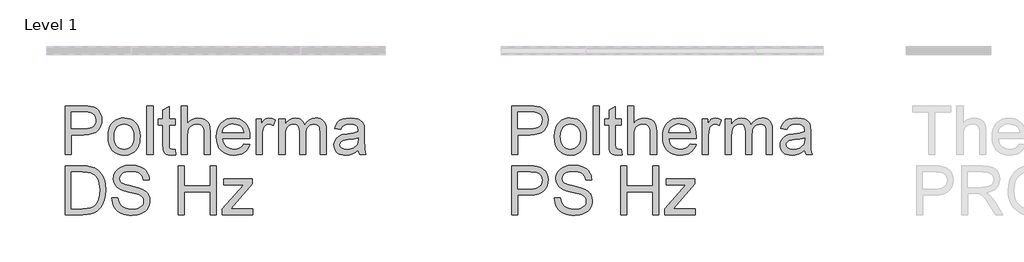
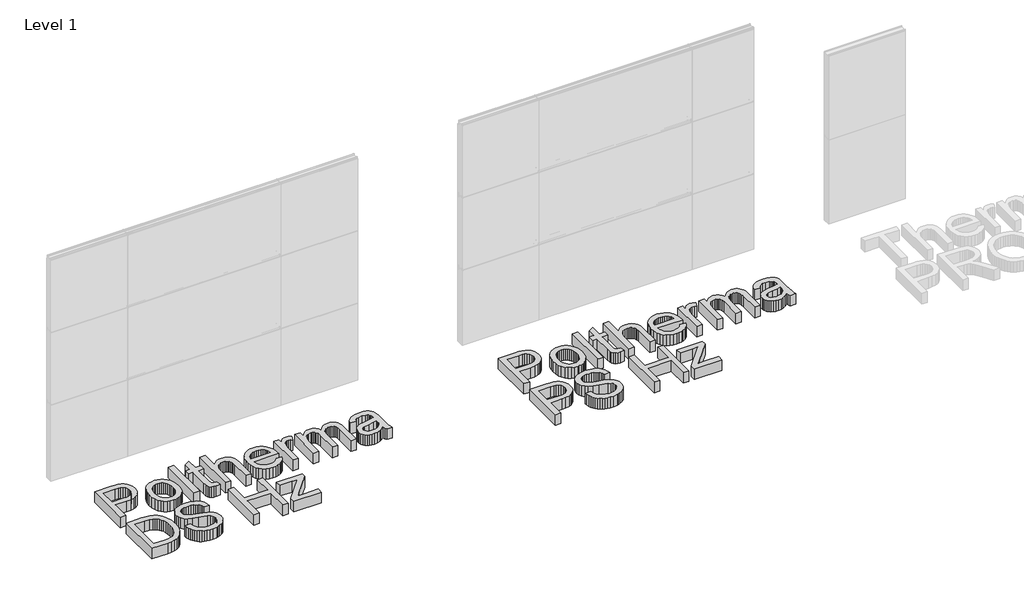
# One storey, part 18 of 27: 2 proxies.
"""IFC4 building model written with IfcOpenShell, lengths in millimetres."""

from ifc_helpers import new_model, si_unit, origin, origin_with_axes, place, context, project, spatial, polyline, outline, extrude, element, save

model = new_model("IFC4")

# Units and contexts
model_context = context("Model", 3, world=origin())
ifc_project = project(units=[si_unit("LENGTHUNIT", "METRE", prefix="MILLI")], contexts=[model_context])

# Site, building, storey
site = spatial("IfcSite", under=ifc_project)
building = spatial("IfcBuilding", under=site)
storey = spatial("IfcBuildingStorey", under=building, Name="Level 1", Elevation=0.0)

# Proxies
placement = place(None, origin())
element("IfcBuildingElementProxy", 1, Name="600mm Arial", ObjectType="600mm Arial", at=placement, inside=storey, context=model_context, shape_type="SweptSolid", body=[
    extrude(outline(polyline([(251.3160797, -19557.7938606), (251.3160797, -18967.0246299), (470.2583874, -18967.0246299), (521.2439643, -18968.4308799), (558.5276182, -18972.6496299), (597.8845893, -18983.1604472), (630.2824259, -19000.2698222), (656.3701663, -19024.7529953), (676.7968489, -19057.3852068), (689.9939643, -19095.8767933), (694.3930028, -19137.9380914), (691.4227504, -19174.2031154), (682.5119932, -19207.5654953), (667.6607312, -19238.0252308), (646.8689643, -19265.5823222), (618.3247937, -19288.4248703), (580.2163201, -19304.740976), (532.5435437, -19314.5306395), (475.3064643, -19317.7938606), (325.1622336, -19317.7938606), (325.1622336, -19557.7938606), (251.3160797, -19557.7938606)]), holes=[polyline([(325.1622336, -19243.9477068), (479.6333874, -19243.9477068), (515.1502143, -19242.2529953), (545.1141566, -19237.1688606), (569.5252143, -19228.6953029), (588.3833874, -19216.8323222), (602.4549018, -19201.8954231), (612.5059836, -19184.2001106), (618.5366326, -19163.7463847), (620.5468489, -19140.5342453), (615.8052624, -19107.3611683), (601.5805028, -19079.3803991), (579.639397, -19058.3227068), (551.748772, -19045.9188606), (523.2631951, -19042.1328029), (477.9026182, -19040.8707837), (325.1622336, -19040.8707837), (325.1622336, -19243.9477068)])]), origin_with_axes(), (0.0, 0.0, 1.0), 150.0),
    extrude(outline(polyline([(768.2391566, -19340.8707837), (772.2325461, -19284.6838847), (784.2127143, -19236.2674183), (804.1796614, -19195.6213847), (832.1333874, -19162.7457837), (860.2764163, -19141.7331635), (891.3401182, -19126.7241491), (925.3244932, -19117.7187404), (962.2295413, -19114.7169376), (1002.9702263, -19118.3722861), (1039.8076663, -19129.3383318), (1072.741861, -19147.6150746), (1101.7728105, -19173.2025145), (1125.4672215, -19205.2352669), (1142.3918009, -19242.8479472), (1152.5465485, -19286.0405553), (1155.9314643, -19334.8130914), (1154.4350701, -19374.3413366), (1149.9458874, -19409.4164568), (1142.4639163, -19440.038452), (1131.9891566, -19466.2073222), (1118.6523177, -19488.810988), (1102.5841086, -19508.7373703), (1083.7845292, -19525.9864688), (1062.2535797, -19540.5582837), (1038.8296013, -19552.1373102), (1014.3509355, -19560.4080433), (988.8175821, -19565.3704832), (962.2295413, -19567.0246299), (920.8939042, -19563.3828029), (883.7139163, -19552.4573222), (850.6895773, -19534.2481876), (821.8208874, -19508.7553991), (798.3788802, -19476.4116491), (781.6345893, -19437.6496299), (771.5880148, -19392.4693414), (768.2391566, -19340.8707837)]), holes=[polyline([(842.0853105, -19340.7265529), (844.2217288, -19376.545363), (850.6309836, -19407.5594856), (861.3130749, -19433.7689207), (876.2680028, -19455.1736683), (894.4591086, -19471.8007717), (914.8497336, -19483.6772741), (937.4398778, -19490.8031755), (962.2295413, -19493.178476), (986.8930028, -19490.7896539), (1009.3930028, -19483.6231876), (1029.7295413, -19471.679077), (1047.9026182, -19454.9573222), (1062.8575461, -19433.3407356), (1073.5396374, -19406.7121299), (1079.9488922, -19375.0715049), (1082.0853105, -19338.4188606), (1079.9353706, -19303.7358678), (1073.4855509, -19273.5330433), (1062.7358513, -19247.8103871), (1047.686272, -19226.5678991), (1029.4455869, -19209.9407957), (1009.1225701, -19198.0642933), (986.7172215, -19190.9383919), (962.2295413, -19188.5630914), (937.4398778, -19190.9293775), (914.8497336, -19198.0282356), (894.4591086, -19209.8596659), (876.2680028, -19226.4236683), (861.3130749, -19247.765315), (850.6309836, -19273.9296779), (844.2217288, -19304.9167573), (842.0853105, -19340.7265529)])]), origin_with_axes(), (0.0, 0.0, 1.0), 150.0),
    extrude(outline(polyline([(1239.0083874, -19557.7938606), (1239.0083874, -18967.0246299), (1312.8545413, -18967.0246299), (1312.8545413, -19557.7938606), (1239.0083874, -19557.7938606)])), origin_with_axes(), (0.0, 0.0, 1.0), 150.0),
    extrude(outline(polyline([(1580.5468489, -19496.2073222), (1589.7776182, -19559.9573222), (1534.5372336, -19567.0246299), (1499.092522, -19563.959726), (1472.6622336, -19554.7650145), (1453.9843489, -19540.5943414), (1441.7968489, -19522.6015529), (1435.0901182, -19491.7001106), (1432.8545413, -19438.803476), (1432.8545413, -19197.7938606), (1377.4699259, -19197.7938606), (1377.4699259, -19123.9477068), (1432.8545413, -19123.9477068), (1432.8545413, -19018.5150145), (1506.7006951, -18975.1015529), (1506.7006951, -19123.9477068), (1580.5468489, -19123.9477068), (1580.5468489, -19197.7938606), (1506.7006951, -19197.7938606), (1506.7006951, -19436.6400145), (1510.5949259, -19474.7169376), (1523.2151182, -19488.2025145), (1533.8701663, -19491.9344856), (1548.3833874, -19493.178476), (1580.5468489, -19496.2073222)])), origin_with_axes(), (0.0, 0.0, 1.0), 150.0),
    extrude(outline(polyline([(1654.3930028, -19557.7938606), (1654.3930028, -18967.0246299), (1728.2391566, -18967.0246299), (1728.2391566, -19184.2361683), (1755.3635557, -19153.8215049), (1785.8232913, -19132.0967453), (1819.6183634, -19119.0618895), (1856.748772, -19114.7169376), (1901.3521374, -19119.4585241), (1939.6814643, -19133.6832837), (1969.8617528, -19156.2734279), (1990.0180028, -19186.1111683), (2001.3761759, -19227.1087645), (2005.1622336, -19283.178476), (2005.1622336, -19557.7938606), (1931.3160797, -19557.7938606), (1931.3160797, -19290.8227068), (1929.8467288, -19265.8888126), (1925.4386759, -19244.5967453), (1918.0919211, -19226.9465049), (1907.8064643, -19212.9380914), (1894.8256951, -19202.2740289), (1879.3930028, -19194.6568414), (1861.5083874, -19190.0865289), (1841.1718489, -19188.5630914), (1809.9639163, -19192.6736683), (1780.6670413, -19205.0053991), (1756.4002143, -19224.3683799), (1740.2824259, -19249.5727068), (1731.2499739, -19283.0703029), (1728.2391566, -19327.3130914), (1728.2391566, -19557.7938606), (1654.3930028, -19557.7938606)])), origin_with_axes(), (0.0, 0.0, 1.0), 150.0),
    extrude(outline(polyline([(2410.4506951, -19428.5630914), (2482.8545413, -19437.7938606), (2471.7532792, -19466.7932597), (2456.7668009, -19492.3491491), (2437.8951062, -19514.4615289), (2415.1381951, -19533.1303991), (2388.7304427, -19547.9591251), (2358.9062239, -19558.5510722), (2325.6655388, -19564.9062404), (2289.0083874, -19567.0246299), (2243.1880749, -19563.3692813), (2202.3617528, -19552.4032356), (2166.5294211, -19534.1264928), (2135.6910797, -19508.5390529), (2110.8924018, -19476.3530553), (2093.1790605, -19438.2806395), (2082.5510557, -19394.3218053), (2079.0083874, -19344.4765529), (2082.5871134, -19292.9410962), (2093.3232913, -19247.5174183), (2111.2169211, -19208.2055193), (2136.2680028, -19175.0053991), (2167.0252143, -19148.6291972), (2202.0372336, -19129.7890529), (2241.3040605, -19118.4849664), (2284.8256951, -19114.7169376), (2326.9455869, -19118.475952), (2365.0360316, -19129.7529953), (2399.0970292, -19148.5480674), (2429.1285797, -19174.8611683), (2453.6433033, -19207.9891731), (2471.1538201, -19247.2289568), (2481.6601302, -19292.5805193), (2485.1622336, -19344.0438606), (2484.7295413, -19363.9477068), (2152.8545413, -19363.9477068), (2157.131885, -19393.4158558), (2165.6369932, -19419.2241491), (2178.3698658, -19441.3725866), (2195.3305028, -19459.8611683), (2215.5814042, -19474.4374904), (2238.1850701, -19484.8491491), (2263.1415004, -19491.0961443), (2290.4506951, -19493.178476), (2329.7535797, -19489.3203029), (2362.8545413, -19477.7457837), (2389.7535797, -19457.7337645), (2410.4506951, -19428.5630914)]), holes=[polyline([(2152.8545413, -19290.1015529), (2411.3160797, -19290.1015529), (2401.3280989, -19251.0871299), (2392.7373538, -19235.7445818), (2381.748772, -19223.178476), (2361.6105509, -19208.0342453), (2338.6958874, -19197.2169376), (2313.0047816, -19190.7265529), (2284.5372336, -19188.5630914), (2258.5711879, -19190.2893534), (2234.7595893, -19195.4681395), (2213.1024379, -19204.0994496), (2193.5997336, -19216.1832837), (2177.2340485, -19231.1607477), (2164.9879547, -19248.4729472), (2156.8614523, -19268.1198823), (2152.8545413, -19290.1015529)])]), origin_with_axes(), (0.0, 0.0, 1.0), 150.0),
    extrude(outline(polyline([(2559.0083874, -19557.7938606), (2559.0083874, -19123.9477068), (2623.623772, -19123.9477068), (2623.623772, -19188.1303991), (2647.4939643, -19150.9188606), (2669.4891566, -19128.9957837), (2691.5564643, -19118.2866491), (2715.6430028, -19114.7169376), (2752.4218489, -19120.4140529), (2789.7776182, -19137.5053991), (2765.1141566, -19203.7073222), (2739.1526182, -19192.3491491), (2713.1910797, -19188.5630914), (2691.1418009, -19192.2049183), (2671.436272, -19203.1303991), (2655.5168009, -19220.5102068), (2644.8256951, -19243.5150145), (2635.8473297, -19284.7650145), (2632.8545413, -19329.7650145), (2632.8545413, -19557.7938606), (2559.0083874, -19557.7938606)])), origin_with_axes(), (0.0, 0.0, 1.0), 150.0),
    extrude(outline(polyline([(2835.9314643, -19557.7938606), (2835.9314643, -19123.9477068), (2909.7776182, -19123.9477068), (2909.7776182, -19195.3419376), (2931.9891566, -19162.5474664), (2960.5468489, -19136.8563606), (2994.4771374, -19120.2517933), (3032.8064643, -19114.7169376), (3073.8761759, -19120.3599664), (3091.3551422, -19127.4137525), (3106.7968489, -19137.2890529), (3131.3881951, -19164.3864087), (3147.4699259, -19200.5342453), (3174.3869932, -19162.9891731), (3205.0901182, -19136.1712645), (3239.5793009, -19120.0805193), (3277.8545413, -19114.7169376), (3307.4173417, -19116.9480073), (3333.3653586, -19123.6412164), (3355.6985917, -19134.796565), (3374.4170413, -19150.4140529), (3389.2142167, -19170.6739688), (3399.7836278, -19195.756601), (3406.1252744, -19225.6619496), (3408.2391566, -19260.3900145), (3408.2391566, -19557.7938606), (3334.3930028, -19557.7938606), (3334.3930028, -19292.1207837), (3332.6802624, -19255.287851), (3327.5420413, -19230.4621299), (3317.9146374, -19213.4609279), (3302.7343489, -19200.1015529), (3283.2091086, -19191.4477068), (3260.5468489, -19188.5630914), (3239.6198658, -19190.4110481), (3220.5408393, -19195.9549183), (3203.3097696, -19205.194702), (3187.9266566, -19218.1303991), (3175.2749138, -19235.1406154), (3166.2379547, -19256.6039568), (3160.8157792, -19282.5204231), (3159.0083874, -19312.8900145), (3159.0083874, -19557.7938606), (3085.1622336, -19557.7938606), (3085.1622336, -19283.8996299), (3080.889397, -19242.1448222), (3068.0708874, -19212.3611683), (3058.1595292, -19201.9495097), (3045.5168009, -19194.5126106), (3030.1427023, -19190.0504712), (3012.0372336, -19188.5630914), (2983.5877143, -19192.5294376), (2957.373772, -19204.428476), (2935.7391566, -19223.9717453), (2921.0276182, -19250.8707837), (2912.5901182, -19288.1904953), (2909.7776182, -19338.9957837), (2909.7776182, -19557.7938606), (2835.9314643, -19557.7938606)])), origin_with_axes(), (0.0, 0.0, 1.0), 150.0),
    extrude(outline(polyline([(3795.9314643, -19502.4092453), (3760.6490124, -19532.6616491), (3724.3208874, -19552.4573222), (3686.1177624, -19563.3828029), (3645.2103105, -19567.0246299), (3612.3302023, -19564.8341251), (3583.4975701, -19558.2626106), (3558.7124138, -19547.3100866), (3537.9747336, -19531.9765529), (3521.600034, -19513.2355674), (3509.9038201, -19492.0606876), (3502.8860917, -19468.4519135), (3500.5468489, -19442.4092453), (3504.0805028, -19411.7962645), (3514.6814643, -19383.9957837), (3531.0336278, -19360.1977068), (3551.8208874, -19341.5919376), (3576.2499739, -19327.5294376), (3603.5276182, -19317.3611683), (3667.4218489, -19306.2553991), (3742.9266566, -19294.5727068), (3795.498772, -19280.8707837), (3795.9314643, -19264.428476), (3790.8473297, -19231.4717453), (3784.4921614, -19219.2662164), (3775.5949259, -19209.9092453), (3760.2163201, -19200.5703029), (3741.4843489, -19193.8996299), (3693.9603105, -19188.5630914), (3649.9699259, -19192.1147741), (3619.248772, -19202.7698222), (3598.2992528, -19222.475351), (3583.623772, -19253.178476), (3509.7776182, -19243.9477068), (3522.5961278, -19203.5630914), (3541.7247336, -19171.8323222), (3568.9482913, -19147.5654953), (3606.0516566, -19129.5727068), (3651.4302624, -19118.4308799), (3703.4795413, -19114.7169376), (3753.4014163, -19117.9981876), (3792.9747336, -19127.8419376), (3822.8124739, -19142.6436203), (3843.5276182, -19160.7986683), (3857.2655989, -19183.2445818), (3866.1718489, -19210.9188606), (3869.7776182, -19275.5342453), (3869.7776182, -19367.4092453), (3873.5276182, -19495.7025145), (3879.0805028, -19527.4152549), (3888.2391566, -19557.7938606), (3814.3930028, -19557.7938606), (3802.5660797, -19532.1207837), (3795.9314643, -19502.4092453)]), holes=[polyline([(3795.9314643, -19354.7169376), (3746.3160797, -19367.0126106), (3676.7968489, -19377.3611683), (3613.2631951, -19389.3323222), (3596.7307432, -19397.5174183), (3584.4891566, -19408.803476), (3576.9170413, -19422.3251106), (3574.3930028, -19437.2169376), (3579.8918009, -19459.1760722), (3596.3881951, -19477.1688606), (3623.5216086, -19489.1760722), (3660.9314643, -19493.178476), (3700.5949259, -19488.7614087), (3735.6430028, -19475.5102068), (3764.0564643, -19455.9849664), (3783.8160797, -19432.7457837), (3792.5780989, -19408.803476), (3795.498772, -19375.6303991), (3795.9314643, -19354.7169376)])]), origin_with_axes(), (0.0, 0.0, 1.0), 150.0),
    extrude(outline(polyline([(251.3160797, -20287.0246299), (251.3160797, -19696.2553991), (455.1141566, -19696.2553991), (516.0155989, -19698.3828029), (560.5468489, -19704.7650145), (607.6381951, -19721.1712645), (647.373772, -19747.0246299), (669.2698057, -19768.1544376), (688.2271374, -19792.0246299), (704.2457672, -19818.6352068), (717.3256951, -19847.9861683), (727.4849499, -19879.8070818), (734.7415605, -19913.8275145), (740.5468489, -19988.4669376), (736.6165605, -20051.8743895), (724.8256951, -20107.6736683), (706.8689643, -20155.1796779), (684.4410797, -20193.7073222), (658.623772, -20224.1219856), (630.498772, -20247.2890529), (598.2091086, -20264.4705433), (559.8978105, -20276.928476), (515.4927624, -20284.5005914), (464.9218489, -20287.0246299), (251.3160797, -20287.0246299)]), holes=[polyline([(325.1622336, -20213.178476), (455.8353105, -20213.178476), (509.8857913, -20210.5102068), (550.8833874, -20202.5053991), (581.8208874, -20189.6328029), (605.6910797, -20172.3611683), (631.3461278, -20140.3960241), (650.6189643, -20099.0198222), (662.6802624, -20048.0522741), (666.7006951, -19987.3130914), (664.7310437, -19944.4404953), (658.8220893, -19906.8323222), (648.9738321, -19874.4885722), (635.186272, -19847.4092453), (618.5771975, -19824.9813606), (600.264397, -19806.5919376), (580.2478706, -19792.240976), (558.5276182, -19781.928476), (516.0516566, -19773.0582837), (453.8160797, -19770.1015529), (325.1622336, -19770.1015529), (325.1622336, -20213.178476)])]), origin_with_axes(), (0.0, 0.0, 1.0), 150.0),
    extrude(outline(polyline([(814.3930028, -20083.9477068), (888.2391566, -20083.9477068), (896.7127143, -20124.9272741), (912.0372336, -20157.865976), (935.9434836, -20184.0078029), (970.1622336, -20204.5967453), (1011.9891566, -20217.9561203), (1058.7199259, -20222.4092453), (1099.8617528, -20219.037851), (1135.8833874, -20208.9236683), (1165.0720893, -20192.9140529), (1185.7151182, -20171.8563606), (1197.9927624, -20147.6796779), (1202.0853105, -20122.3130914), (1199.0204066, -20097.5955433), (1189.8256951, -20076.2313606), (1171.1478105, -20058.0041972), (1139.6333874, -20042.6977068), (1032.1093489, -20014.5005914), (961.5264163, -19995.8407356), (916.3641566, -19978.0823222), (879.6033393, -19953.2385722), (853.5516566, -19923.1303991), (838.0288201, -19888.4068414), (832.8545413, -19849.7169376), (834.4546013, -19827.7262525), (839.2547816, -19806.4657356), (847.2550821, -19785.9353871), (858.4555028, -19766.1352068), (872.7298417, -19747.8719856), (889.951897, -19731.9525145), (910.1216687, -19718.3767933), (933.2391566, -19707.1448222), (985.1982913, -19692.0546779), (1042.7103105, -19687.0246299), (1105.0180028, -19692.2890529), (1159.5372336, -19708.0823222), (1183.389397, -19719.8461443), (1204.3208874, -19734.0799183), (1222.3317047, -19750.7836443), (1237.4218489, -19769.9573222), (1249.4741326, -19791.0420578), (1258.3713682, -19813.4789568), (1264.1135557, -19837.2680193), (1266.7006951, -19862.4092453), (1192.8545413, -19862.4092453), (1187.9146374, -19838.8455433), (1179.2968489, -19818.3467453), (1167.0011759, -19800.912851), (1151.0276182, -19786.5438606), (1131.0786999, -19775.3118895), (1106.8569451, -19767.2890529), (1078.3623538, -19762.475351), (1045.5949259, -19760.8707837), (1011.7818249, -19762.4573222), (982.8905989, -19767.2169376), (958.921248, -19775.1496299), (939.873772, -19786.2553991), (925.3605509, -19799.6057597), (914.9939643, -19814.272226), (908.7740124, -19830.2547981), (906.7006951, -19847.553476), (912.5780989, -19875.9308799), (930.2103105, -19898.7553991), (946.4002143, -19908.9056395), (971.8930028, -19919.1640529), (1050.7872336, -19940.0053991), (1132.2055028, -19959.8010722), (1181.4603105, -19977.0727068), (1223.5576663, -20003.8635722), (1239.8332071, -20019.6117693), (1252.9266566, -20036.928476), (1262.99126, -20055.7235481), (1270.1802624, -20075.9068414), (1275.9314643, -20120.4380914), (1274.2773177, -20143.5375505), (1269.3148778, -20165.9609279), (1261.0441446, -20187.7082236), (1249.4651182, -20208.7794376), (1234.780623, -20228.3587645), (1217.1934836, -20245.6303991), (1196.7036999, -20260.5943414), (1173.311272, -20273.2505914), (1147.6967888, -20283.3151948), (1120.5408393, -20290.5041972), (1061.6045413, -20296.2553991), (1023.8296013, -20294.7049183), (989.2547816, -20290.053476), (957.8800821, -20282.3010722), (929.7055028, -20271.4477068), (904.5597696, -20257.475351), (882.2716086, -20240.365976), (862.8410196, -20220.1195818), (846.2680028, -20196.7361683), (832.9176422, -20170.9729472), (823.155022, -20143.5871299), (816.9801422, -20114.5787164), (814.3930028, -20083.9477068)])), origin_with_axes(), (0.0, 0.0, 1.0), 150.0),
    extrude(outline(polyline([(1617.4699259, -20287.0246299), (1617.4699259, -19696.2553991), (1691.3160797, -19696.2553991), (1691.3160797, -19936.2553991), (2005.1622336, -19936.2553991), (2005.1622336, -19696.2553991), (2079.0083874, -19696.2553991), (2079.0083874, -20287.0246299), (2005.1622336, -20287.0246299), (2005.1622336, -20010.1015529), (1691.3160797, -20010.1015529), (1691.3160797, -20287.0246299), (1617.4699259, -20287.0246299)])), origin_with_axes(), (0.0, 0.0, 1.0), 150.0),
    extrude(outline(polyline([(2152.8545413, -20287.0246299), (2152.8545413, -20217.5053991), (2407.7103105, -19927.0246299), (2332.2776182, -19927.0246299), (2171.3160797, -19927.0246299), (2171.3160797, -19853.178476), (2512.8545413, -19853.178476), (2512.8545413, -19915.9188606), (2286.8449259, -20173.6592453), (2252.2295413, -20213.178476), (2337.6141566, -20213.178476), (2522.0853105, -20213.178476), (2522.0853105, -20287.0246299), (2152.8545413, -20287.0246299)])), origin_with_axes(), (0.0, 0.0, 1.0), 150.0),
])
element("IfcBuildingElementProxy", 2, Name="600mm Arial", ObjectType="600mm Arial", at=placement, inside=storey, context=model_context, shape_type="SweptSolid", body=[
    extrude(outline(polyline([(5651.3160797, -19557.7938606), (5651.3160797, -18967.0246299), (5870.2583874, -18967.0246299), (5921.2439643, -18968.4308799), (5958.5276182, -18972.6496299), (5997.8845893, -18983.1604472), (6030.2824259, -19000.2698222), (6056.3701663, -19024.7529953), (6076.7968489, -19057.3852068), (6089.9939643, -19095.8767933), (6094.3930028, -19137.9380914), (6091.4227504, -19174.2031154), (6082.5119932, -19207.5654953), (6067.6607312, -19238.0252308), (6046.8689643, -19265.5823222), (6018.3247937, -19288.4248703), (5980.2163201, -19304.740976), (5932.5435437, -19314.5306395), (5875.3064643, -19317.7938606), (5725.1622336, -19317.7938606), (5725.1622336, -19557.7938606), (5651.3160797, -19557.7938606)]), holes=[polyline([(5725.1622336, -19243.9477068), (5879.6333874, -19243.9477068), (5915.1502143, -19242.2529953), (5945.1141566, -19237.1688606), (5969.5252143, -19228.6953029), (5988.3833874, -19216.8323222), (6002.4549018, -19201.8954231), (6012.5059836, -19184.2001106), (6018.5366326, -19163.7463847), (6020.5468489, -19140.5342453), (6015.8052624, -19107.3611683), (6001.5805028, -19079.3803991), (5979.639397, -19058.3227068), (5951.748772, -19045.9188606), (5923.2631951, -19042.1328029), (5877.9026182, -19040.8707837), (5725.1622336, -19040.8707837), (5725.1622336, -19243.9477068)])]), origin_with_axes(), (0.0, 0.0, 1.0), 150.0),
    extrude(outline(polyline([(6168.2391566, -19340.8707837), (6172.2325461, -19284.6838847), (6184.2127143, -19236.2674183), (6204.1796614, -19195.6213847), (6232.1333874, -19162.7457837), (6260.2764163, -19141.7331635), (6291.3401182, -19126.7241491), (6325.3244932, -19117.7187404), (6362.2295413, -19114.7169376), (6402.9702263, -19118.3722861), (6439.8076663, -19129.3383318), (6472.741861, -19147.6150746), (6501.7728105, -19173.2025145), (6525.4672215, -19205.2352669), (6542.3918009, -19242.8479472), (6552.5465485, -19286.0405553), (6555.9314643, -19334.8130914), (6554.4350701, -19374.3413366), (6549.9458874, -19409.4164568), (6542.4639163, -19440.038452), (6531.9891566, -19466.2073222), (6518.6523177, -19488.810988), (6502.5841086, -19508.7373703), (6483.7845292, -19525.9864688), (6462.2535797, -19540.5582837), (6438.8296013, -19552.1373102), (6414.3509355, -19560.4080433), (6388.8175821, -19565.3704832), (6362.2295413, -19567.0246299), (6320.8939042, -19563.3828029), (6283.7139163, -19552.4573222), (6250.6895773, -19534.2481876), (6221.8208874, -19508.7553991), (6198.3788802, -19476.4116491), (6181.6345893, -19437.6496299), (6171.5880148, -19392.4693414), (6168.2391566, -19340.8707837)]), holes=[polyline([(6242.0853105, -19340.7265529), (6244.2217288, -19376.545363), (6250.6309836, -19407.5594856), (6261.3130749, -19433.7689207), (6276.2680028, -19455.1736683), (6294.4591086, -19471.8007717), (6314.8497336, -19483.6772741), (6337.4398778, -19490.8031755), (6362.2295413, -19493.178476), (6386.8930028, -19490.7896539), (6409.3930028, -19483.6231876), (6429.7295413, -19471.679077), (6447.9026182, -19454.9573222), (6462.8575461, -19433.3407356), (6473.5396374, -19406.7121299), (6479.9488922, -19375.0715049), (6482.0853105, -19338.4188606), (6479.9353706, -19303.7358678), (6473.4855509, -19273.5330433), (6462.7358513, -19247.8103871), (6447.686272, -19226.5678991), (6429.4455869, -19209.9407957), (6409.1225701, -19198.0642933), (6386.7172215, -19190.9383919), (6362.2295413, -19188.5630914), (6337.4398778, -19190.9293775), (6314.8497336, -19198.0282356), (6294.4591086, -19209.8596659), (6276.2680028, -19226.4236683), (6261.3130749, -19247.765315), (6250.6309836, -19273.9296779), (6244.2217288, -19304.9167573), (6242.0853105, -19340.7265529)])]), origin_with_axes(), (0.0, 0.0, 1.0), 150.0),
    extrude(outline(polyline([(6639.0083874, -19557.7938606), (6639.0083874, -18967.0246299), (6712.8545413, -18967.0246299), (6712.8545413, -19557.7938606), (6639.0083874, -19557.7938606)])), origin_with_axes(), (0.0, 0.0, 1.0), 150.0),
    extrude(outline(polyline([(6980.5468489, -19496.2073222), (6989.7776182, -19559.9573222), (6934.5372336, -19567.0246299), (6899.092522, -19563.959726), (6872.6622336, -19554.7650145), (6853.9843489, -19540.5943414), (6841.7968489, -19522.6015529), (6835.0901182, -19491.7001106), (6832.8545413, -19438.803476), (6832.8545413, -19197.7938606), (6777.4699259, -19197.7938606), (6777.4699259, -19123.9477068), (6832.8545413, -19123.9477068), (6832.8545413, -19018.5150145), (6906.7006951, -18975.1015529), (6906.7006951, -19123.9477068), (6980.5468489, -19123.9477068), (6980.5468489, -19197.7938606), (6906.7006951, -19197.7938606), (6906.7006951, -19436.6400145), (6910.5949259, -19474.7169376), (6923.2151182, -19488.2025145), (6933.8701663, -19491.9344856), (6948.3833874, -19493.178476), (6980.5468489, -19496.2073222)])), origin_with_axes(), (0.0, 0.0, 1.0), 150.0),
    extrude(outline(polyline([(7054.3930028, -19557.7938606), (7054.3930028, -18967.0246299), (7128.2391566, -18967.0246299), (7128.2391566, -19184.2361683), (7155.3635557, -19153.8215049), (7185.8232913, -19132.0967453), (7219.6183634, -19119.0618895), (7256.748772, -19114.7169376), (7301.3521374, -19119.4585241), (7339.6814643, -19133.6832837), (7369.8617528, -19156.2734279), (7390.0180028, -19186.1111683), (7401.3761759, -19227.1087645), (7405.1622336, -19283.178476), (7405.1622336, -19557.7938606), (7331.3160797, -19557.7938606), (7331.3160797, -19290.8227068), (7329.8467288, -19265.8888126), (7325.4386759, -19244.5967453), (7318.0919211, -19226.9465049), (7307.8064643, -19212.9380914), (7294.8256951, -19202.2740289), (7279.3930028, -19194.6568414), (7261.5083874, -19190.0865289), (7241.1718489, -19188.5630914), (7209.9639163, -19192.6736683), (7180.6670413, -19205.0053991), (7156.4002143, -19224.3683799), (7140.2824259, -19249.5727068), (7131.2499739, -19283.0703029), (7128.2391566, -19327.3130914), (7128.2391566, -19557.7938606), (7054.3930028, -19557.7938606)])), origin_with_axes(), (0.0, 0.0, 1.0), 150.0),
    extrude(outline(polyline([(7810.4506951, -19428.5630914), (7882.8545413, -19437.7938606), (7871.7532792, -19466.7932597), (7856.7668009, -19492.3491491), (7837.8951062, -19514.4615289), (7815.1381951, -19533.1303991), (7788.7304427, -19547.9591251), (7758.9062239, -19558.5510722), (7725.6655388, -19564.9062404), (7689.0083874, -19567.0246299), (7643.1880749, -19563.3692813), (7602.3617528, -19552.4032356), (7566.5294211, -19534.1264928), (7535.6910797, -19508.5390529), (7510.8924018, -19476.3530553), (7493.1790605, -19438.2806395), (7482.5510557, -19394.3218053), (7479.0083874, -19344.4765529), (7482.5871134, -19292.9410962), (7493.3232913, -19247.5174183), (7511.2169211, -19208.2055193), (7536.2680028, -19175.0053991), (7567.0252143, -19148.6291972), (7602.0372336, -19129.7890529), (7641.3040605, -19118.4849664), (7684.8256951, -19114.7169376), (7726.9455869, -19118.475952), (7765.0360316, -19129.7529953), (7799.0970292, -19148.5480674), (7829.1285797, -19174.8611683), (7853.6433033, -19207.9891731), (7871.1538201, -19247.2289568), (7881.6601302, -19292.5805193), (7885.1622336, -19344.0438606), (7884.7295413, -19363.9477068), (7552.8545413, -19363.9477068), (7557.131885, -19393.4158558), (7565.6369932, -19419.2241491), (7578.3698658, -19441.3725866), (7595.3305028, -19459.8611683), (7615.5814042, -19474.4374904), (7638.1850701, -19484.8491491), (7663.1415004, -19491.0961443), (7690.4506951, -19493.178476), (7729.7535797, -19489.3203029), (7762.8545413, -19477.7457837), (7789.7535797, -19457.7337645), (7810.4506951, -19428.5630914)]), holes=[polyline([(7552.8545413, -19290.1015529), (7811.3160797, -19290.1015529), (7801.3280989, -19251.0871299), (7792.7373538, -19235.7445818), (7781.748772, -19223.178476), (7761.6105509, -19208.0342453), (7738.6958874, -19197.2169376), (7713.0047816, -19190.7265529), (7684.5372336, -19188.5630914), (7658.5711879, -19190.2893534), (7634.7595893, -19195.4681395), (7613.1024379, -19204.0994496), (7593.5997336, -19216.1832837), (7577.2340485, -19231.1607477), (7564.9879547, -19248.4729472), (7556.8614523, -19268.1198823), (7552.8545413, -19290.1015529)])]), origin_with_axes(), (0.0, 0.0, 1.0), 150.0),
    extrude(outline(polyline([(7959.0083874, -19557.7938606), (7959.0083874, -19123.9477068), (8023.623772, -19123.9477068), (8023.623772, -19188.1303991), (8047.4939643, -19150.9188606), (8069.4891566, -19128.9957837), (8091.5564643, -19118.2866491), (8115.6430028, -19114.7169376), (8152.4218489, -19120.4140529), (8189.7776182, -19137.5053991), (8165.1141566, -19203.7073222), (8139.1526182, -19192.3491491), (8113.1910797, -19188.5630914), (8091.1418009, -19192.2049183), (8071.436272, -19203.1303991), (8055.5168009, -19220.5102068), (8044.8256951, -19243.5150145), (8035.8473297, -19284.7650145), (8032.8545413, -19329.7650145), (8032.8545413, -19557.7938606), (7959.0083874, -19557.7938606)])), origin_with_axes(), (0.0, 0.0, 1.0), 150.0),
    extrude(outline(polyline([(8235.9314643, -19557.7938606), (8235.9314643, -19123.9477068), (8309.7776182, -19123.9477068), (8309.7776182, -19195.3419376), (8331.9891566, -19162.5474664), (8360.5468489, -19136.8563606), (8394.4771374, -19120.2517933), (8432.8064643, -19114.7169376), (8473.8761759, -19120.3599664), (8491.3551422, -19127.4137525), (8506.7968489, -19137.2890529), (8531.3881951, -19164.3864087), (8547.4699259, -19200.5342453), (8574.3869932, -19162.9891731), (8605.0901182, -19136.1712645), (8639.5793009, -19120.0805193), (8677.8545413, -19114.7169376), (8707.4173417, -19116.9480073), (8733.3653586, -19123.6412164), (8755.6985917, -19134.796565), (8774.4170413, -19150.4140529), (8789.2142167, -19170.6739688), (8799.7836278, -19195.756601), (8806.1252744, -19225.6619496), (8808.2391566, -19260.3900145), (8808.2391566, -19557.7938606), (8734.3930028, -19557.7938606), (8734.3930028, -19292.1207837), (8732.6802624, -19255.287851), (8727.5420413, -19230.4621299), (8717.9146374, -19213.4609279), (8702.7343489, -19200.1015529), (8683.2091086, -19191.4477068), (8660.5468489, -19188.5630914), (8639.6198658, -19190.4110481), (8620.5408393, -19195.9549183), (8603.3097696, -19205.194702), (8587.9266566, -19218.1303991), (8575.2749138, -19235.1406154), (8566.2379547, -19256.6039568), (8560.8157792, -19282.5204231), (8559.0083874, -19312.8900145), (8559.0083874, -19557.7938606), (8485.1622336, -19557.7938606), (8485.1622336, -19283.8996299), (8480.889397, -19242.1448222), (8468.0708874, -19212.3611683), (8458.1595292, -19201.9495097), (8445.5168009, -19194.5126106), (8430.1427023, -19190.0504712), (8412.0372336, -19188.5630914), (8383.5877143, -19192.5294376), (8357.373772, -19204.428476), (8335.7391566, -19223.9717453), (8321.0276182, -19250.8707837), (8312.5901182, -19288.1904953), (8309.7776182, -19338.9957837), (8309.7776182, -19557.7938606), (8235.9314643, -19557.7938606)])), origin_with_axes(), (0.0, 0.0, 1.0), 150.0),
    extrude(outline(polyline([(9195.9314643, -19502.4092453), (9160.6490124, -19532.6616491), (9124.3208874, -19552.4573222), (9086.1177624, -19563.3828029), (9045.2103105, -19567.0246299), (9012.3302023, -19564.8341251), (8983.4975701, -19558.2626106), (8958.7124138, -19547.3100866), (8937.9747336, -19531.9765529), (8921.600034, -19513.2355674), (8909.9038201, -19492.0606876), (8902.8860917, -19468.4519135), (8900.5468489, -19442.4092453), (8904.0805028, -19411.7962645), (8914.6814643, -19383.9957837), (8931.0336278, -19360.1977068), (8951.8208874, -19341.5919376), (8976.2499739, -19327.5294376), (9003.5276182, -19317.3611683), (9067.4218489, -19306.2553991), (9142.9266566, -19294.5727068), (9195.498772, -19280.8707837), (9195.9314643, -19264.428476), (9190.8473297, -19231.4717453), (9184.4921614, -19219.2662164), (9175.5949259, -19209.9092453), (9160.2163201, -19200.5703029), (9141.4843489, -19193.8996299), (9093.9603105, -19188.5630914), (9049.9699259, -19192.1147741), (9019.248772, -19202.7698222), (8998.2992528, -19222.475351), (8983.623772, -19253.178476), (8909.7776182, -19243.9477068), (8922.5961278, -19203.5630914), (8941.7247336, -19171.8323222), (8968.9482913, -19147.5654953), (9006.0516566, -19129.5727068), (9051.4302624, -19118.4308799), (9103.4795413, -19114.7169376), (9153.4014163, -19117.9981876), (9192.9747336, -19127.8419376), (9222.8124739, -19142.6436203), (9243.5276182, -19160.7986683), (9257.2655989, -19183.2445818), (9266.1718489, -19210.9188606), (9269.7776182, -19275.5342453), (9269.7776182, -19367.4092453), (9273.5276182, -19495.7025145), (9279.0805028, -19527.4152549), (9288.2391566, -19557.7938606), (9214.3930028, -19557.7938606), (9202.5660797, -19532.1207837), (9195.9314643, -19502.4092453)]), holes=[polyline([(9195.9314643, -19354.7169376), (9146.3160797, -19367.0126106), (9076.7968489, -19377.3611683), (9013.2631951, -19389.3323222), (8996.7307432, -19397.5174183), (8984.4891566, -19408.803476), (8976.9170413, -19422.3251106), (8974.3930028, -19437.2169376), (8979.8918009, -19459.1760722), (8996.3881951, -19477.1688606), (9023.5216086, -19489.1760722), (9060.9314643, -19493.178476), (9100.5949259, -19488.7614087), (9135.6430028, -19475.5102068), (9164.0564643, -19455.9849664), (9183.8160797, -19432.7457837), (9192.5780989, -19408.803476), (9195.498772, -19375.6303991), (9195.9314643, -19354.7169376)])]), origin_with_axes(), (0.0, 0.0, 1.0), 150.0),
    extrude(outline(polyline([(5651.3160797, -20287.0246299), (5651.3160797, -19696.2553991), (5870.2583874, -19696.2553991), (5921.2439643, -19697.6616491), (5958.5276182, -19701.8803991), (5997.8845893, -19712.3912164), (6030.2824259, -19729.5005914), (6056.3701663, -19753.9837645), (6076.7968489, -19786.615976), (6089.9939643, -19825.1075626), (6094.3930028, -19867.1688606), (6091.4227504, -19903.4338847), (6082.5119932, -19936.7962645), (6067.6607312, -19967.2560001), (6046.8689643, -19994.8130914), (6018.3247937, -20017.6556395), (5980.2163201, -20033.9717453), (5932.5435437, -20043.7614087), (5875.3064643, -20047.0246299), (5725.1622336, -20047.0246299), (5725.1622336, -20287.0246299), (5651.3160797, -20287.0246299)]), holes=[polyline([(5725.1622336, -19973.178476), (5879.6333874, -19973.178476), (5915.1502143, -19971.4837645), (5945.1141566, -19966.3996299), (5969.5252143, -19957.9260722), (5988.3833874, -19946.0630914), (6002.4549018, -19931.1261924), (6012.5059836, -19913.4308799), (6018.5366326, -19892.9771539), (6020.5468489, -19869.7650145), (6015.8052624, -19836.5919376), (6001.5805028, -19808.6111683), (5979.639397, -19787.553476), (5951.748772, -19775.1496299), (5923.2631951, -19771.3635722), (5877.9026182, -19770.1015529), (5725.1622336, -19770.1015529), (5725.1622336, -19973.178476)])]), origin_with_axes(), (0.0, 0.0, 1.0), 150.0),
    extrude(outline(polyline([(6168.2391566, -20083.9477068), (6242.0853105, -20083.9477068), (6250.5588682, -20124.9272741), (6265.8833874, -20157.865976), (6289.7896374, -20184.0078029), (6324.0083874, -20204.5967453), (6365.8353105, -20217.9561203), (6412.5660797, -20222.4092453), (6453.7079066, -20219.037851), (6489.7295413, -20208.9236683), (6518.9182432, -20192.9140529), (6539.561272, -20171.8563606), (6551.8389163, -20147.6796779), (6555.9314643, -20122.3130914), (6552.8665605, -20097.5955433), (6543.6718489, -20076.2313606), (6524.9939643, -20058.0041972), (6493.4795413, -20042.6977068), (6385.9555028, -20014.5005914), (6315.3725701, -19995.8407356), (6270.2103105, -19978.0823222), (6233.4494932, -19953.2385722), (6207.3978105, -19923.1303991), (6191.8749739, -19888.4068414), (6186.7006951, -19849.7169376), (6188.3007552, -19827.7262525), (6193.1009355, -19806.4657356), (6201.101236, -19785.9353871), (6212.3016566, -19766.1352068), (6226.5759956, -19747.8719856), (6243.7980509, -19731.9525145), (6263.9678225, -19718.3767933), (6287.0853105, -19707.1448222), (6339.0444451, -19692.0546779), (6396.5564643, -19687.0246299), (6458.8641566, -19692.2890529), (6513.3833874, -19708.0823222), (6537.2355509, -19719.8461443), (6558.1670413, -19734.0799183), (6576.1778586, -19750.7836443), (6591.2680028, -19769.9573222), (6603.3202864, -19791.0420578), (6612.217522, -19813.4789568), (6617.9597095, -19837.2680193), (6620.5468489, -19862.4092453), (6546.7006951, -19862.4092453), (6541.7607913, -19838.8455433), (6533.1430028, -19818.3467453), (6520.8473297, -19800.912851), (6504.873772, -19786.5438606), (6484.9248538, -19775.3118895), (6460.7030989, -19767.2890529), (6432.2085076, -19762.475351), (6399.4410797, -19760.8707837), (6365.6279788, -19762.4573222), (6336.7367528, -19767.2169376), (6312.7674018, -19775.1496299), (6293.7199259, -19786.2553991), (6279.2067047, -19799.6057597), (6268.8401182, -19814.272226), (6262.6201663, -19830.2547981), (6260.5468489, -19847.553476), (6266.4242528, -19875.9308799), (6284.0564643, -19898.7553991), (6300.2463682, -19908.9056395), (6325.7391566, -19919.1640529), (6404.6333874, -19940.0053991), (6486.0516566, -19959.8010722), (6535.3064643, -19977.0727068), (6577.4038201, -20003.8635722), (6593.679361, -20019.6117693), (6606.7728105, -20036.928476), (6616.8374138, -20055.7235481), (6624.0264163, -20075.9068414), (6629.7776182, -20120.4380914), (6628.1234715, -20143.5375505), (6623.1610316, -20165.9609279), (6614.8902985, -20187.7082236), (6603.311272, -20208.7794376), (6588.6267768, -20228.3587645), (6571.0396374, -20245.6303991), (6550.5498538, -20260.5943414), (6527.1574259, -20273.2505914), (6501.5429427, -20283.3151948), (6474.3869932, -20290.5041972), (6415.4506951, -20296.2553991), (6377.6757552, -20294.7049183), (6343.1009355, -20290.053476), (6311.726236, -20282.3010722), (6283.5516566, -20271.4477068), (6258.4059235, -20257.475351), (6236.1177624, -20240.365976), (6216.6871735, -20220.1195818), (6200.1141566, -20196.7361683), (6186.7637961, -20170.9729472), (6177.0011759, -20143.5871299), (6170.8262961, -20114.5787164), (6168.2391566, -20083.9477068)])), origin_with_axes(), (0.0, 0.0, 1.0), 150.0),
    extrude(outline(polyline([(6971.3160797, -20287.0246299), (6971.3160797, -19696.2553991), (7045.1622336, -19696.2553991), (7045.1622336, -19936.2553991), (7359.0083874, -19936.2553991), (7359.0083874, -19696.2553991), (7432.8545413, -19696.2553991), (7432.8545413, -20287.0246299), (7359.0083874, -20287.0246299), (7359.0083874, -20010.1015529), (7045.1622336, -20010.1015529), (7045.1622336, -20287.0246299), (6971.3160797, -20287.0246299)])), origin_with_axes(), (0.0, 0.0, 1.0), 150.0),
    extrude(outline(polyline([(7506.7006951, -20287.0246299), (7506.7006951, -20217.5053991), (7761.5564643, -19927.0246299), (7686.123772, -19927.0246299), (7525.1622336, -19927.0246299), (7525.1622336, -19853.178476), (7866.7006951, -19853.178476), (7866.7006951, -19915.9188606), (7640.6910797, -20173.6592453), (7606.0756951, -20213.178476), (7691.4603105, -20213.178476), (7875.9314643, -20213.178476), (7875.9314643, -20287.0246299), (7506.7006951, -20287.0246299)])), origin_with_axes(), (0.0, 0.0, 1.0), 150.0),
])

save(model, "model.ifc")
